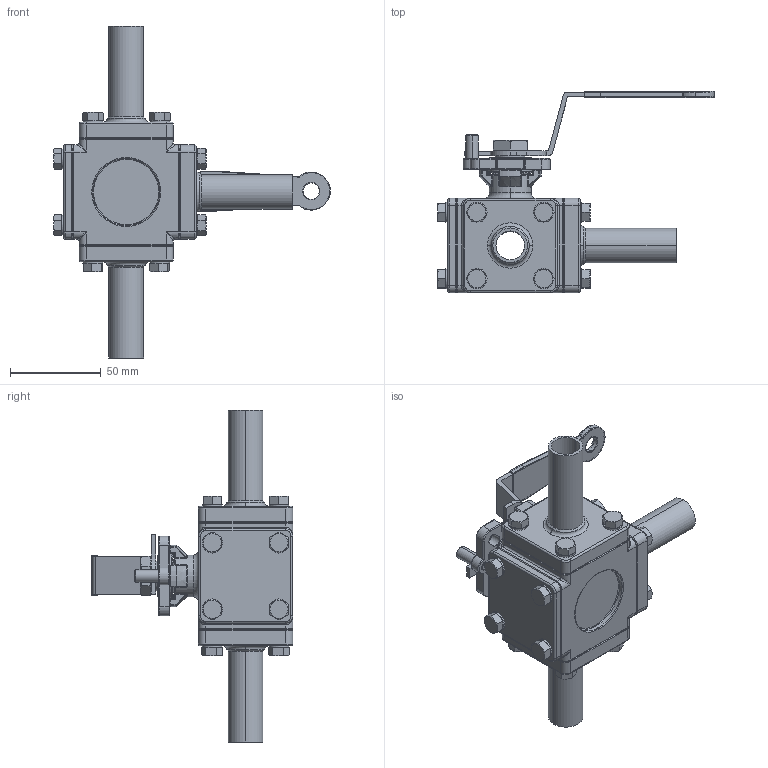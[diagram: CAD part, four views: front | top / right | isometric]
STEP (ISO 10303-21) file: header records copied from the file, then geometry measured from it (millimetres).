
FILE_DESCRIPTION (( 'STEP AP203' ), '1' );
FILE_NAME ('E93WWW-6.75-T.STEP', '2019-07-02T02:20:42', ( '' ), ( '' ), 'SwSTEP 2.0', 'SolidWorks 2014', '' );
FILE_SCHEMA (( 'CONFIG_CONTROL_DESIGN' ));
Length unit declared in the file: millimetre
Products named in the file (24): 20.SEAT BACK0.75; 19.3WAY-CAP0.75; 9.RING0.5-0.75; E93WWW-6.75-T; 4.SEAT1-0.75; 2.3WAY-CAP-W-0.75; 16.BOLT0.75; 22.SEAT-R-0.75; 12.3WAY-NUT0.5-.0.75; 11.STOP PIN0.5-1.0; 10.BEVEL WASHER0.5-0.75; 18.THINNER NUT0.5-.0.75; 22.SEAT-L-0.75; 13.STEM0.75; 3.3WAY-BALL-0.75-T; 6.THRUST WASHER0.75; 21.PLAIN WASHER0.5-0.75; 7.O-RING0.75; 14.HANDLE0.5-0.75; 15.SPRING WASHER0.5-0.75; 17.LOCKING TAB0.5-0.75; 5.GASKET0.75; 1.3WAY-BODY0.75; 8.STEM PACKING0.75
Assembly tree (58 placements, depth 2):
  E93WWW-6.75-T
    1.3WAY-BODY0.75
    13.STEM0.75
    6.THRUST WASHER0.75
    7.O-RING0.75
    8.STEM PACKING0.75
    9.RING0.5-0.75
    10.BEVEL WASHER0.5-0.75  x2
    18.THINNER NUT0.5-.0.75
    17.LOCKING TAB0.5-0.75
    21.PLAIN WASHER0.5-0.75
    22.SEAT-L-0.75
    22.SEAT-R-0.75
    20.SEAT BACK0.75
    5.GASKET0.75  x2
    4.SEAT1-0.75  x2
    19.3WAY-CAP0.75
    15.SPRING WASHER0.5-0.75  x16
    16.BOLT0.75  x16
    11.STOP PIN0.5-1.0
    12.3WAY-NUT0.5-.0.75
    14.HANDLE0.5-0.75
    3.3WAY-BALL-0.75-T
    2.3WAY-CAP-W-0.75  x3
Bounding box: 152.5 x 111.13 x 183 mm (x, y, z)
Volume: 282404.4 mm3; surface area: 137219.8 mm2
Topology: 59 solids, 59 shells, 1482 faces, 3345 edges, 1971 vertices
Faces by surface type: cylinder 556, plane 398, cone 226, torus 195, sphere 57, bspline 50
Entity records: 33951 total; most frequent: CARTESIAN_POINT 7992, DIRECTION 5171, ORIENTED_EDGE 4442, EDGE_CURVE 2221, AXIS2_PLACEMENT_3D 2191, VERTEX_POINT 1315, CIRCLE 1205, EDGE_LOOP 1082
